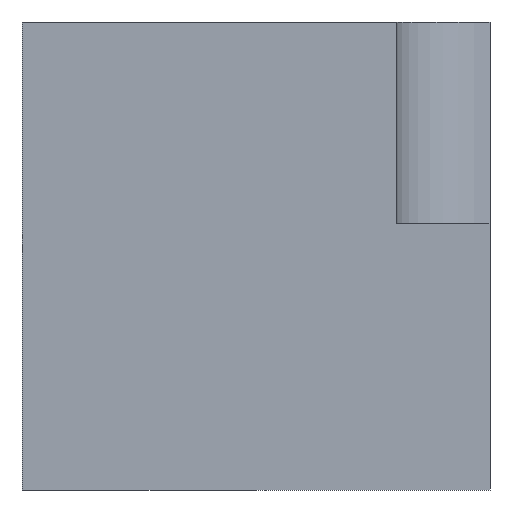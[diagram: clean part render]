
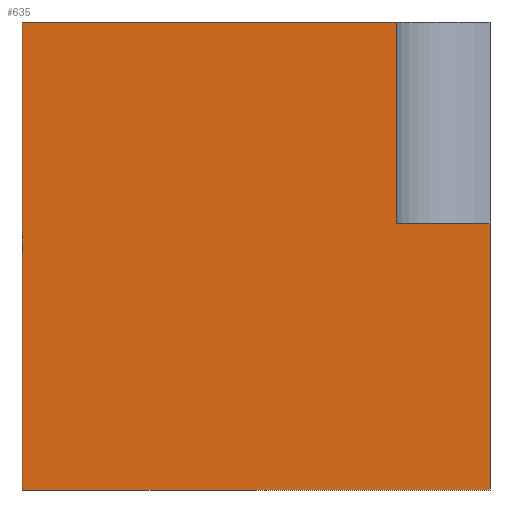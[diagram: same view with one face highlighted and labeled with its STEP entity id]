
A CAD part, left-side view. The second image highlights one B-rep face of the part: STEP entity #635.
In plain terms, the highlighted planar face has unit normal (-1, 0, 0).
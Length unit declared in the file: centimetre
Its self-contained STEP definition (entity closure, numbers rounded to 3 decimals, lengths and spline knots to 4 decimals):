
#9 = DIRECTION ( 'NONE',  ( 0., 0., -1. ) ) ;
#24 = PLANE ( 'NONE',  #387 ) ;
#25 = VERTEX_POINT ( 'NONE', #529 ) ;
#26 = EDGE_CURVE ( 'NONE', #363, #65, #478, .T. ) ;
#30 = ORIENTED_EDGE ( 'NONE', *, *, #79, .T. ) ;
#34 = LINE ( 'NONE', #94, #175 ) ;
#39 = FACE_OUTER_BOUND ( 'NONE', #580, .T. ) ;
#62 = VECTOR ( 'NONE', #178, 100. ) ;
#65 = VERTEX_POINT ( 'NONE', #88 ) ;
#72 = LINE ( 'NONE', #77, #555 ) ;
#77 = CARTESIAN_POINT ( 'NONE',  ( 0., 1000., 1000. ) ) ;
#79 = EDGE_CURVE ( 'NONE', #363, #155, #328, .T. ) ;
#86 = CARTESIAN_POINT ( 'NONE',  ( 0., 1000., 0. ) ) ;
#88 = CARTESIAN_POINT ( 'NONE',  ( 0., 0., 568.6418 ) ) ;
#94 = CARTESIAN_POINT ( 'NONE',  ( 0., 0., 1000. ) ) ;
#97 = CARTESIAN_POINT ( 'NONE',  ( 0., 200.1047, 568.6418 ) ) ;
#124 = CARTESIAN_POINT ( 'NONE',  ( 0., 1000., 1000. ) ) ;
#142 = CARTESIAN_POINT ( 'NONE',  ( 0., 200.1047, 1000. ) ) ;
#155 = VERTEX_POINT ( 'NONE', #142 ) ;
#169 = ORIENTED_EDGE ( 'NONE', *, *, #535, .F. ) ;
#175 = VECTOR ( 'NONE', #396, 100. ) ;
#178 = DIRECTION ( 'NONE',  ( 0., 0., 1. ) ) ;
#206 = DIRECTION ( 'NONE',  ( 1., 0., 0. ) ) ;
#212 = VECTOR ( 'NONE', #381, 100. ) ;
#219 = VECTOR ( 'NONE', #483, 100. ) ;
#290 = VERTEX_POINT ( 'NONE', #472 ) ;
#328 = LINE ( 'NONE', #518, #62 ) ;
#334 = CARTESIAN_POINT ( 'NONE',  ( 0., 1000., 1000. ) ) ;
#363 = VERTEX_POINT ( 'NONE', #97 ) ;
#379 = EDGE_CURVE ( 'NONE', #65, #25, #34, .T. ) ;
#381 = DIRECTION ( 'NONE',  ( 0., -1., 0. ) ) ;
#387 = AXIS2_PLACEMENT_3D ( 'NONE', #517, #206, #9 ) ;
#396 = DIRECTION ( 'NONE',  ( 0., 0., -1. ) ) ;
#416 = ORIENTED_EDGE ( 'NONE', *, *, #574, .T. ) ;
#428 = DIRECTION ( 'NONE',  ( 0., -1., 0. ) ) ;
#435 = DIRECTION ( 'NONE',  ( 0., 0., -1. ) ) ;
#452 = VECTOR ( 'NONE', #428, 100. ) ;
#472 = CARTESIAN_POINT ( 'NONE',  ( 0., 1000., 0. ) ) ;
#478 = LINE ( 'NONE', #626, #452 ) ;
#483 = DIRECTION ( 'NONE',  ( 0., -1., 0. ) ) ;
#486 = LINE ( 'NONE', #86, #219 ) ;
#509 = ORIENTED_EDGE ( 'NONE', *, *, #26, .F. ) ;
#517 = CARTESIAN_POINT ( 'NONE',  ( 0., 1000., 1000. ) ) ;
#518 = CARTESIAN_POINT ( 'NONE',  ( 0., 200.1047, 568.6418 ) ) ;
#529 = CARTESIAN_POINT ( 'NONE',  ( 0., 0., 0. ) ) ;
#535 = EDGE_CURVE ( 'NONE', #553, #155, #638, .T. ) ;
#553 = VERTEX_POINT ( 'NONE', #124 ) ;
#555 = VECTOR ( 'NONE', #435, 100. ) ;
#557 = ORIENTED_EDGE ( 'NONE', *, *, #379, .F. ) ;
#560 = EDGE_CURVE ( 'NONE', #553, #290, #72, .T. ) ;
#574 = EDGE_CURVE ( 'NONE', #290, #25, #486, .T. ) ;
#580 = EDGE_LOOP ( 'NONE', ( #509, #30, #169, #603, #416, #557 ) ) ;
#603 = ORIENTED_EDGE ( 'NONE', *, *, #560, .T. ) ;
#626 = CARTESIAN_POINT ( 'NONE',  ( 0., 1000., 568.6418 ) ) ;
#635 = ADVANCED_FACE ( 'NONE', ( #39 ), #24, .F. ) ;
#638 = LINE ( 'NONE', #334, #212 ) ;
